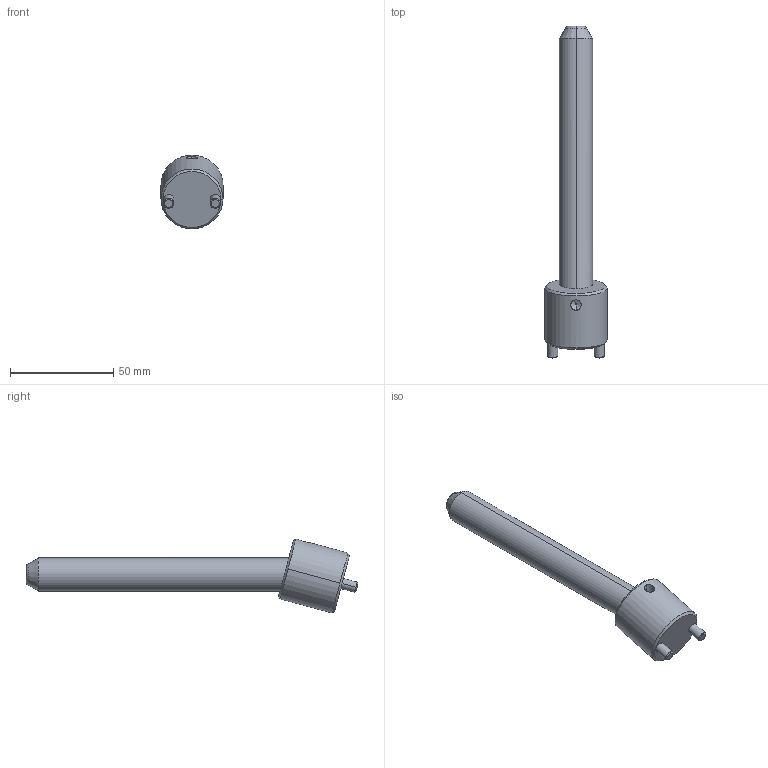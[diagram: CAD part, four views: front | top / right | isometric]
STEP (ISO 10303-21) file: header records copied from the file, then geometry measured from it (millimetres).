
FILE_DESCRIPTION(('CATIA V5 STEP Exchange'),'2;1');
FILE_NAME('C:\Users\Raffaele\Desktop\3D BOLEX\3D FILES CF BOLEX\19-INCLINED ASSEMBLY REF_CI\CI1516125.stp','2019-06-21T14:13:48+00:00',('none'),('none'),'CATIA Version 5 Release 20 GA (IN-10)','CATIA V5 STEP AP203','none');
FILE_SCHEMA(('CONFIG_CONTROL_DESIGN'));
Length unit declared in the file: millimetre
Products named in the file (1): CI1516125
Assembly tree (2 placements, depth 2):
  CI1516125
    #58
    #578
Bounding box: 30 x 160.58 x 35.71 mm (x, y, z)
Volume: 44382.7 mm3; surface area: 13219 mm2
Topology: 2 solids, 2 shells, 39 faces, 82 edges, 47 vertices
Faces by surface type: cone 14, cylinder 14, plane 7, torus 4
Entity records: 1470 total; most frequent: CARTESIAN_POINT 611, ORIENTED_EDGE 160, DIRECTION 145, EDGE_CURVE 80, AXIS2_PLACEMENT_3D 72, VERTEX_POINT 47, EDGE_LOOP 43, ADVANCED_FACE 39
